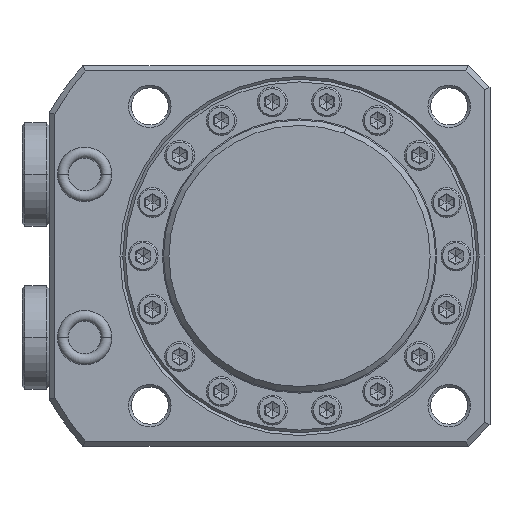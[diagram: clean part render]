
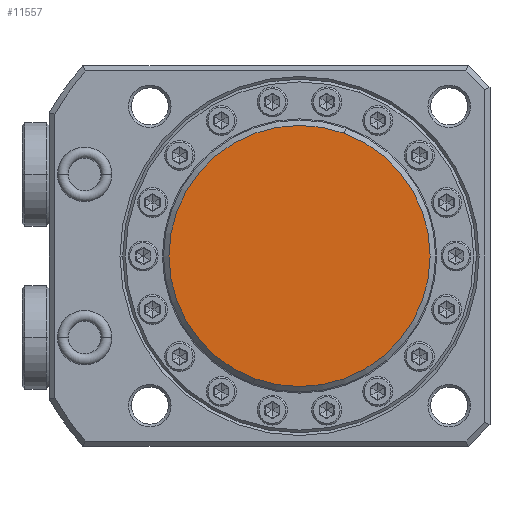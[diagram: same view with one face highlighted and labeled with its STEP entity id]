
A CAD part, front view. The second image highlights one B-rep face of the part: STEP entity #11557.
In plain terms, the highlighted planar face has unit normal (0, -1, 0) as drawn and (0, 0, 1) by its records, which use the part's own axes.
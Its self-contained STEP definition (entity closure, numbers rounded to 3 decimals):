
#9944=CARTESIAN_POINT('',(0.,0.,0.));
#9945=DIRECTION('',(0.,0.,1.));
#9946=DIRECTION('',(-1.,0.,0.));
#9947=AXIS2_PLACEMENT_3D('',#9944,#9945,#9946);
#9949=CARTESIAN_POINT('',(0.,0.,0.));
#9950=DIRECTION('',(0.,0.,1.));
#9951=DIRECTION('',(1.,0.,0.));
#9952=AXIS2_PLACEMENT_3D('',#9949,#9950,#9951);
#11226=CARTESIAN_POINT('',(-24.,0.,0.));
#11227=CARTESIAN_POINT('',(24.,0.,0.));
#11228=VERTEX_POINT('',#11226);
#11229=VERTEX_POINT('',#11227);
#11546=CARTESIAN_POINT('',(0.,0.,0.));
#11547=DIRECTION('',(0.,0.,1.));
#11548=DIRECTION('',(-1.,0.,0.));
#11549=AXIS2_PLACEMENT_3D('',#11546,#11547,#11548);
#11550=PLANE('',#11549);
#11552=ORIENTED_EDGE('',*,*,#11551,.F.);
#11554=ORIENTED_EDGE('',*,*,#11553,.F.);
#11555=EDGE_LOOP('',(#11552,#11554));
#11556=FACE_OUTER_BOUND('',#11555,.F.);
#11557=ADVANCED_FACE('',(#11556),#11550,.T.);
#9948=CIRCLE('',#9947,24.);
#9953=CIRCLE('',#9952,24.);
#11551=EDGE_CURVE('',#11228,#11229,#9948,.T.);
#11553=EDGE_CURVE('',#11229,#11228,#9953,.T.);
